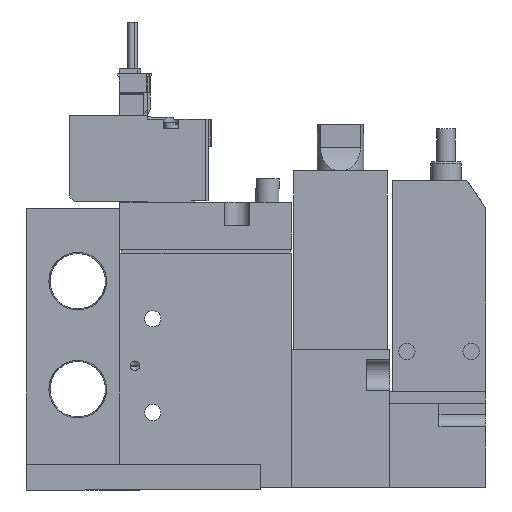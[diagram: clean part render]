
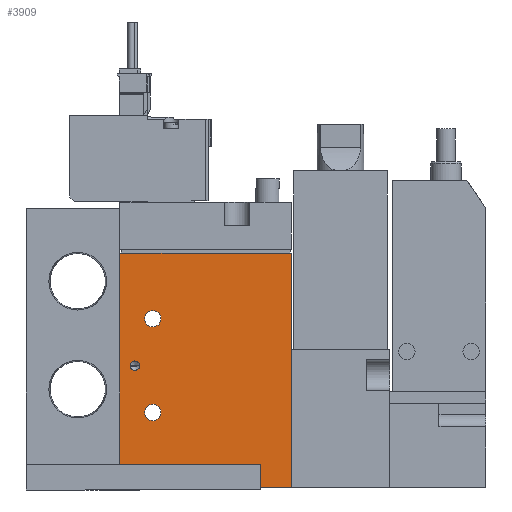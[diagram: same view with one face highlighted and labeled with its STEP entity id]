
A CAD part, left-side view. The second image highlights one B-rep face of the part: STEP entity #3909.
In plain terms, the highlighted planar face has unit normal (-1, 0, 0) as drawn and (1, 0, 0) by its records, which use the part's own axes.
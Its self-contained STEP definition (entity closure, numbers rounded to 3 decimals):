
#3909=ADVANCED_FACE('',(#6149,#6150,#6151,#6152),#6153,.F.);
#6149=FACE_BOUND('',#10676,.T.);
#6150=FACE_BOUND('',#10677,.T.);
#6151=FACE_BOUND('',#10678,.T.);
#6152=FACE_OUTER_BOUND('',#10679,.T.);
#6153=PLANE('',#10680);
#10676=EDGE_LOOP('',(#15950));
#10677=EDGE_LOOP('',(#15951));
#10678=EDGE_LOOP('',(#15952));
#10679=EDGE_LOOP('',(#15953,#15954,#15955,#15956));
#10680=AXIS2_PLACEMENT_3D('',#15957,#15958,#15959);
#15950=ORIENTED_EDGE('',*,*,#30779,.F.);
#15951=ORIENTED_EDGE('',*,*,#30780,.T.);
#15952=ORIENTED_EDGE('',*,*,#30781,.T.);
#15953=ORIENTED_EDGE('',*,*,#30782,.T.);
#15954=ORIENTED_EDGE('',*,*,#30783,.F.);
#15955=ORIENTED_EDGE('',*,*,#30784,.F.);
#15956=ORIENTED_EDGE('',*,*,#30772,.T.);
#15957=CARTESIAN_POINT('',(8.5,-19.444,50.0));
#15958=DIRECTION('',(-1.0,0.0,0.0));
#15959=DIRECTION('',(0.0,0.0,1.0));
#30772=EDGE_CURVE('',#35853,#35851,#35854,.T.);
#30779=EDGE_CURVE('',#35862,#35862,#35863,.T.);
#30780=EDGE_CURVE('',#35864,#35864,#35865,.T.);
#30781=EDGE_CURVE('',#35866,#35866,#35867,.T.);
#30782=EDGE_CURVE('',#35851,#35868,#35869,.T.);
#30783=EDGE_CURVE('',#35870,#35868,#35871,.T.);
#30784=EDGE_CURVE('',#35853,#35870,#35872,.T.);
#35851=VERTEX_POINT('',#44523);
#35853=VERTEX_POINT('',#44526);
#35854=LINE('',#44527,#44528);
#35862=VERTEX_POINT('',#44537);
#35863=CIRCLE('',#44538,1.0);
#35864=VERTEX_POINT('',#44539);
#35865=CIRCLE('',#44540,1.75);
#35866=VERTEX_POINT('',#44541);
#35867=CIRCLE('',#44542,1.75);
#35868=VERTEX_POINT('',#44543);
#35869=LINE('',#44544,#44545);
#35870=VERTEX_POINT('',#44546);
#35871=LINE('',#44547,#44548);
#35872=LINE('',#44549,#44550);
#44523=CARTESIAN_POINT('',(8.5,-19.444,0.0));
#44526=CARTESIAN_POINT('',(8.5,-19.444,50.0));
#44527=CARTESIAN_POINT('',(8.5,-19.444,50.0));
#44528=VECTOR('',#56406,1.0);
#44537=CARTESIAN_POINT('',(8.5,-17.244,26.0));
#44538=AXIS2_PLACEMENT_3D('',#56417,#56418,#56419);
#44539=CARTESIAN_POINT('',(8.5,-10.694,36.0));
#44540=AXIS2_PLACEMENT_3D('',#56420,#56421,#56422);
#44541=CARTESIAN_POINT('',(8.5,-10.694,16.0));
#44542=AXIS2_PLACEMENT_3D('',#56423,#56424,#56425);
#44543=CARTESIAN_POINT('',(8.5,17.056,0.0));
#44544=CARTESIAN_POINT('',(8.5,-19.444,0.0));
#44545=VECTOR('',#56426,1.0);
#44546=CARTESIAN_POINT('',(8.5,17.056,50.0));
#44547=CARTESIAN_POINT('',(8.5,17.056,50.0));
#44548=VECTOR('',#56427,1.0);
#44549=CARTESIAN_POINT('',(8.5,-19.444,50.0));
#44550=VECTOR('',#56428,1.0);
#56406=DIRECTION('',(0.0,0.0,-1.0));
#56417=CARTESIAN_POINT('',(8.5,-16.244,26.0));
#56418=DIRECTION('',(1.0,0.,0.0));
#56419=DIRECTION('',(0.,-1.0,0.0));
#56420=CARTESIAN_POINT('',(8.5,-12.444,36.0));
#56421=DIRECTION('',(-1.0,0.0,0.0));
#56422=DIRECTION('',(0.0,1.0,0.0));
#56423=CARTESIAN_POINT('',(8.5,-12.444,16.0));
#56424=DIRECTION('',(-1.0,0.0,0.0));
#56425=DIRECTION('',(0.0,1.0,0.0));
#56426=DIRECTION('',(0.0,1.0,0.0));
#56427=DIRECTION('',(0.0,0.0,-1.0));
#56428=DIRECTION('',(0.0,1.0,0.0));
